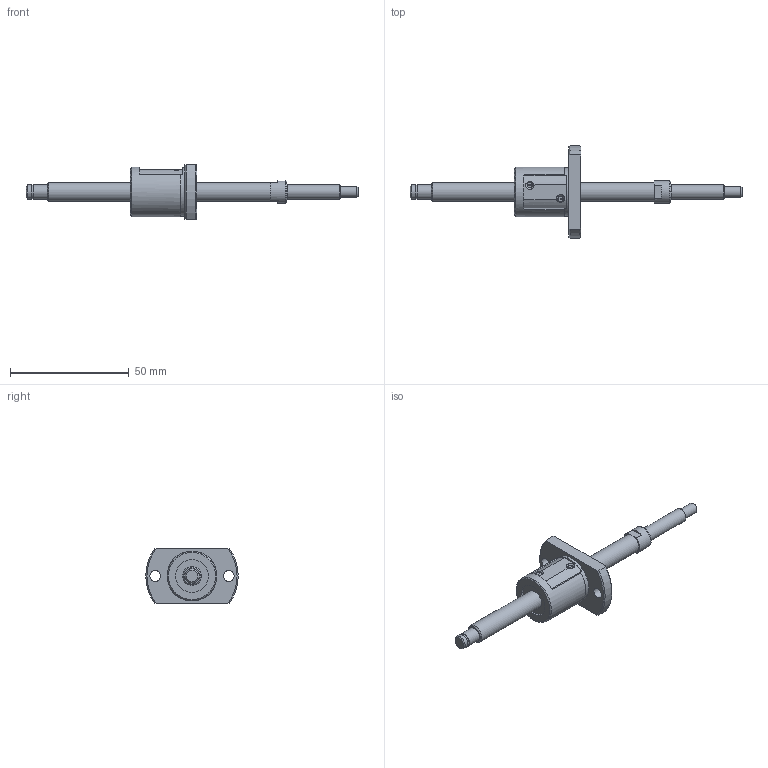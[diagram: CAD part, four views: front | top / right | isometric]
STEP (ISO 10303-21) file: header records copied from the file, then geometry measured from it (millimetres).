
FILE_DESCRIPTION(/* description */ ('STEP AP214'),/* implementation_level */ '2;1');
FILE_NAME(/* name */ 'SG0804-089R140C5B0X(35)',/* time_stamp */ '2026-07-21T16:49:25+02:00',/* author */ ('License CC BY-ND 4.0'),/* organization */ ('CADENAS'),/* preprocessor_version */ 'ST-DEVELOPER v20',/* originating_system */ 'PARTsolutions',/* authorisation */ ' ');
FILE_SCHEMA (('AUTOMOTIVE_DESIGN {1 0 10303 214 3 1 1}'));
Length unit declared in the file: millimetre
Products named in the file (3): SG0804-089R140C5B0X(35); SG0804-89R140C5B_shaft; SG0804 C5_nut
Assembly tree (2 placements, depth 2):
  SG0804-089R140C5B0X(35)
    SG0804-89R140C5B_shaft
    SG0804 C5_nut
Bounding box: 140 x 39 x 23 mm (x, y, z)
Volume: 16360.9 mm3; surface area: 7876.9 mm2
Topology: 2 solids, 2 shells, 79 faces, 188 edges, 123 vertices
Faces by surface type: plane 38, cylinder 26, cone 14, torus 1
Full cylindrical faces by diameter (mm): 4.5 x3, 5.7 x1, 6 x3, 8 x2, 9.5 x1, 14 x2, 20.5 x1, 21 x1
Entity records: 2197 total; most frequent: CARTESIAN_POINT 408, DIRECTION 374, ORIENTED_EDGE 306, AXIS2_PLACEMENT_3D 157, EDGE_CURVE 153, EDGE_LOOP 120, FACE_BOUND 120, VERTEX_POINT 113
